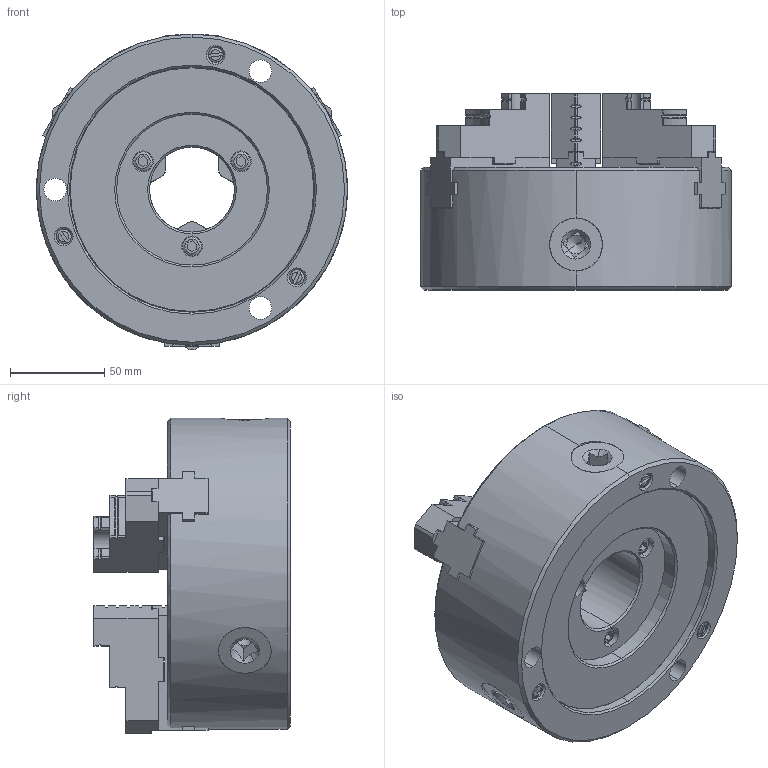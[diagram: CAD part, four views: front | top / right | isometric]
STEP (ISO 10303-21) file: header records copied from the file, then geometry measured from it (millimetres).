
FILE_DESCRIPTION (( 'STEP AP214' ), '1' );
FILE_NAME ('61S263407-2_JN06TN.STEP', '2026-02-27T07:16:14', ( '' ), ( '' ), 'SwSTEP 2.0', 'SolidWorks 2022', '' );
FILE_SCHEMA (( 'AUTOMOTIVE_DESIGN' ));
Length unit declared in the file: millimetre
Products named in the file (5): 61S263407-2_JN06TN; 61S313814_BASE JAW; Bアナツキ M8×20; 61S313815_TOP JAW; Part18^61S263407-2_JN06TN
Assembly tree (13 placements, depth 2):
  61S263407-2_JN06TN
    61S313814_BASE JAW  x3
    61S313815_TOP JAW  x3
    Bアナツキ M8×20  x6
    Part18^61S263407-2_JN06TN
Bounding box: 165 x 104 x 167.5 mm (x, y, z)
Volume: 1285956.8 mm3; surface area: 170411 mm2
Topology: 13 solids, 19 shells, 893 faces, 2332 edges, 1490 vertices
Faces by surface type: plane 392, cylinder 274, cone 177, torus 46, sphere 4
Entity records: 15305 total; most frequent: CARTESIAN_POINT 3544, DIRECTION 2487, ORIENTED_EDGE 2382, EDGE_CURVE 1191, AXIS2_PLACEMENT_3D 944, VERTEX_POINT 763, LINE 599, VECTOR 599
